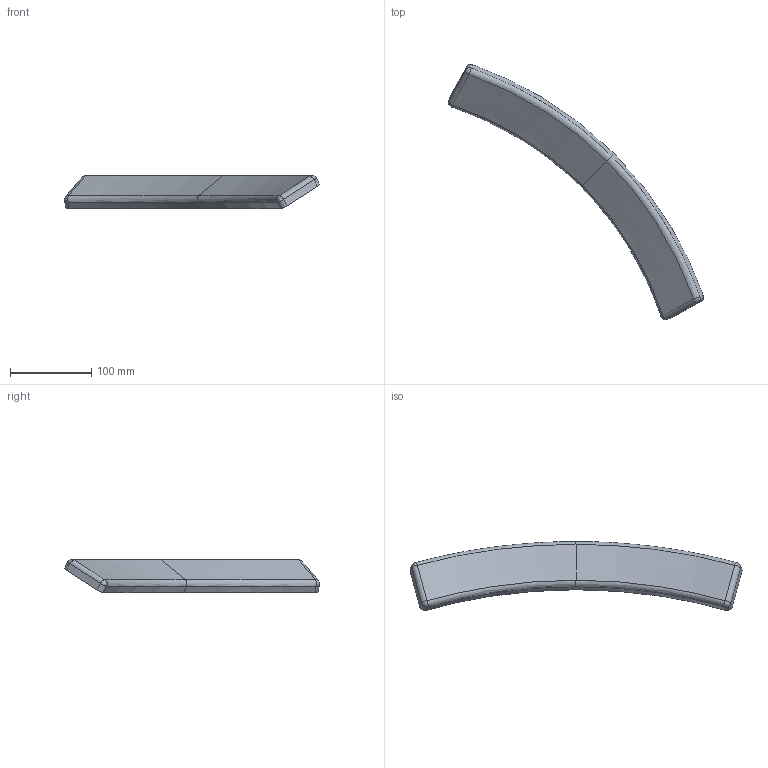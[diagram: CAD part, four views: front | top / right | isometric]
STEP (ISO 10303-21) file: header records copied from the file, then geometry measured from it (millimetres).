
FILE_DESCRIPTION(('STEP AP203'),'2;1');
FILE_NAME('POGDIC.stp','2016-02-24T17:39:41',(''),(''),'2014.1.117','THINKDESIGN','');
FILE_SCHEMA(('CONFIG_CONTROL_DESIGN'));
Length unit declared in the file: millimetre
Bounding box: 313.66 x 313.66 x 41.05 mm (x, y, z)
Volume: 361966.7 mm3; surface area: 60703.8 mm2
Topology: 1 solids, 1 shells, 26 faces, 58 edges, 26 vertices
Faces by surface type: bspline 26
Entity records: 3061 total; most frequent: CARTESIAN_POINT 2626, ORIENTED_EDGE 100, EDGE_CURVE 50, B_SPLINE_CURVE_WITH_KNOTS 38, VERTEX_POINT 26, EDGE_LOOP 26, FACE_OUTER_BOUND 26, ADVANCED_FACE 26
